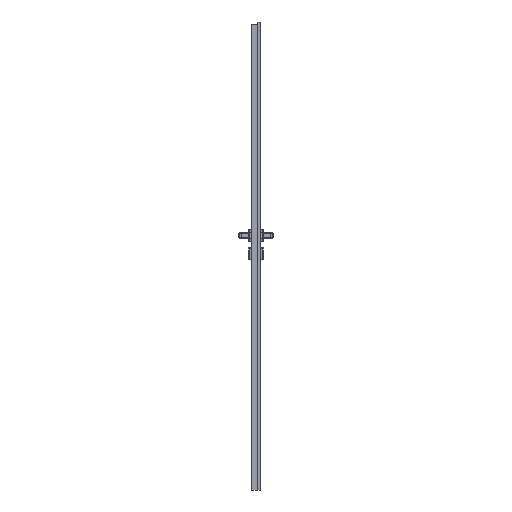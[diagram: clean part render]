
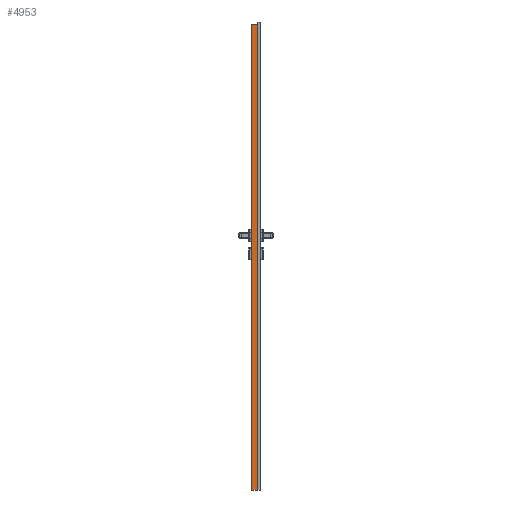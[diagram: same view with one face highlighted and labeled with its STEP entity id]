
A CAD part, left-side view. The second image highlights one B-rep face of the part: STEP entity #4953.
In plain terms, the highlighted planar face has unit normal (-1, 0, 0).
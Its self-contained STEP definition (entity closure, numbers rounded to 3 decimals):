
#2997=FACE_OUTER_BOUND('',#9507,.T.);
#4953=ADVANCED_FACE('',(#2997),#6403,.F.);
#6403=PLANE('',#37426);
#7618=CIRCLE('',#37425,1.48);
#9507=EDGE_LOOP('',(#17314,#17315,#17316,#17317,#17318));
#17314=ORIENTED_EDGE('',*,*,#27313,.F.);
#17315=ORIENTED_EDGE('',*,*,#27315,.T.);
#17316=ORIENTED_EDGE('',*,*,#27316,.T.);
#17317=ORIENTED_EDGE('',*,*,#27317,.F.);
#17318=ORIENTED_EDGE('',*,*,#27300,.T.);
#22868=VERTEX_POINT('',#59414);
#22869=VERTEX_POINT('',#59416);
#22875=VERTEX_POINT('',#59462);
#22876=VERTEX_POINT('',#59470);
#22877=VERTEX_POINT('',#59472);
#27300=EDGE_CURVE('',#22869,#22868,#31234,.T.);
#27313=EDGE_CURVE('',#22875,#22868,#31238,.T.);
#27315=EDGE_CURVE('',#22875,#22876,#7618,.T.);
#27316=EDGE_CURVE('',#22876,#22877,#31239,.T.);
#27317=EDGE_CURVE('',#22869,#22877,#31240,.T.);
#31234=LINE('',#59415,#34504);
#31238=LINE('',#59463,#34508);
#31239=LINE('',#59471,#34509);
#31240=LINE('',#59473,#34510);
#34504=VECTOR('',#45245,1.);
#34508=VECTOR('',#45271,1.);
#34509=VECTOR('',#45276,1.);
#34510=VECTOR('',#45277,1.);
#37425=AXIS2_PLACEMENT_3D('',#59469,#45274,#45275);
#37426=AXIS2_PLACEMENT_3D('',#59474,#45278,#45279);
#45245=DIRECTION('',(0.,-1.,0.));
#45271=DIRECTION('',(0.,0.,-1.));
#45274=DIRECTION('',(1.,0.,0.));
#45275=DIRECTION('',(0.,0.,1.));
#45276=DIRECTION('',(0.,1.,0.));
#45277=DIRECTION('',(0.,0.,1.));
#45278=DIRECTION('',(1.,0.,0.));
#45279=DIRECTION('',(0.,0.,-1.));
#59414=CARTESIAN_POINT('',(-309.,-24.65,0.));
#59415=CARTESIAN_POINT('',(-309.,-24.65,0.));
#59416=CARTESIAN_POINT('',(-309.,-1.65,0.));
#59462=CARTESIAN_POINT('',(-309.,-24.648,2017.074));
#59463=CARTESIAN_POINT('',(-309.,-24.65,0.));
#59469=CARTESIAN_POINT('',(-309.,-24.2,2018.5));
#59470=CARTESIAN_POINT('',(-309.,-24.2,2017.02));
#59471=CARTESIAN_POINT('',(-309.,0.,2017.02));
#59472=CARTESIAN_POINT('',(-309.,-1.65,2017.02));
#59473=CARTESIAN_POINT('',(-309.,-1.65,0.));
#59474=CARTESIAN_POINT('',(-309.,-24.65,0.));
